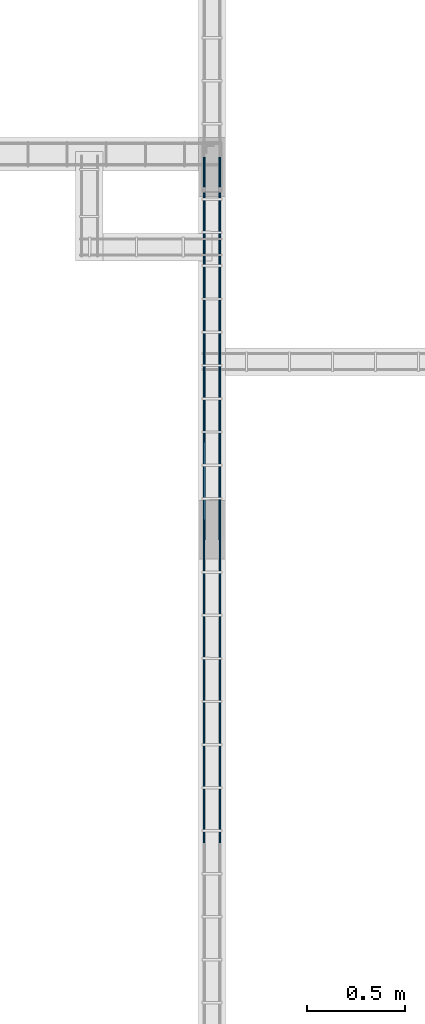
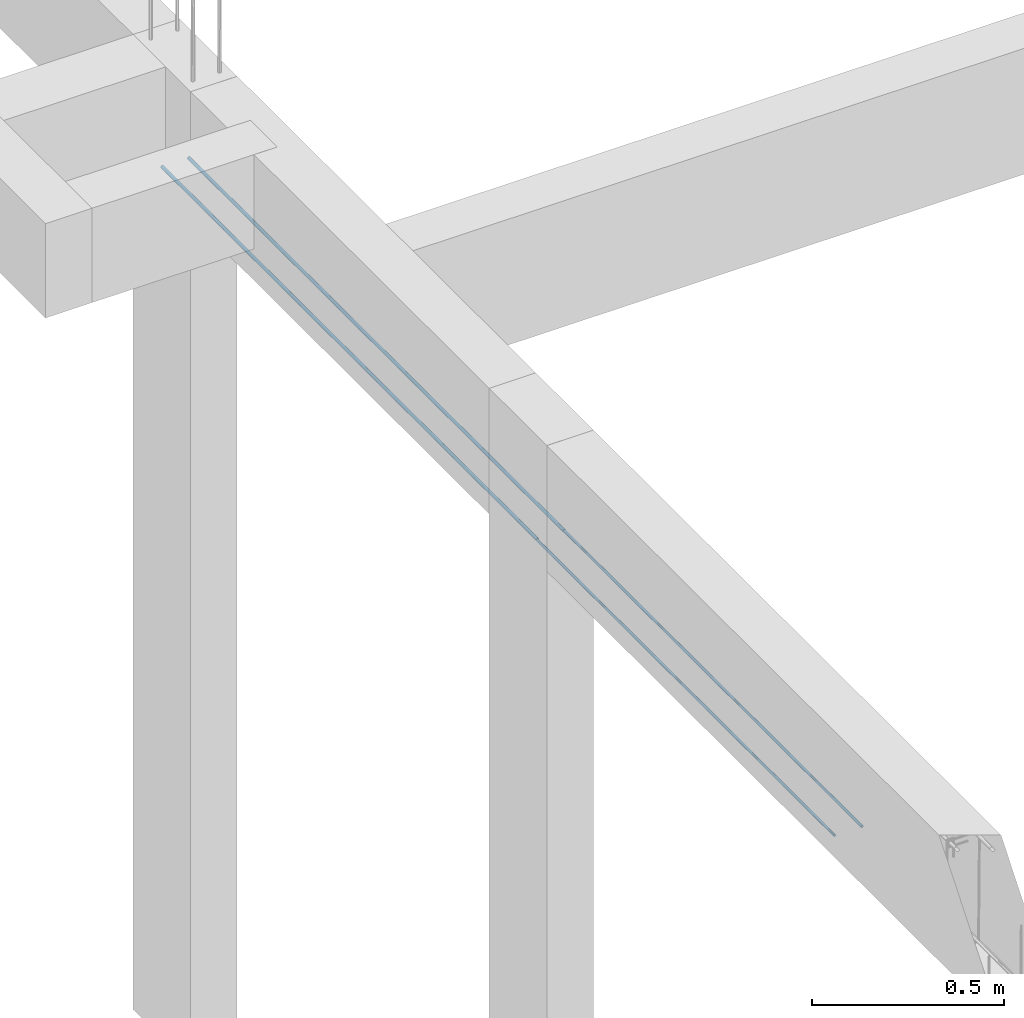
# One storey, part 65 of 236: 4 reinforcing bars.
"""IFC4 building model written with IfcOpenShell, lengths in centimetres."""

from ifc_helpers import new_model, entity, si_unit, derived_unit, frame, origin_with_axes, place, context, project, spatial, element, save


model = new_model("IFC4")

# Units and contexts
model_context = context("Model", 3, precision=1e-05, world=origin_with_axes(), identifier="Body")
ifc_project = project(units=[si_unit("LENGTHUNIT", "METRE", prefix="CENTI"), si_unit("VOLUMEUNIT", "CUBIC_METRE"), si_unit("AREAUNIT", "SQUARE_METRE"), si_unit("POWERUNIT", "WATT"), si_unit("LUMINOUSFLUXUNIT", "LUMEN"), si_unit("ELECTRICCURRENTUNIT", "AMPERE"), si_unit("PRESSUREUNIT", "PASCAL", prefix="KILO"), si_unit("MASSUNIT", "GRAM", prefix="KILO"), si_unit("PLANEANGLEUNIT", "RADIAN"), derived_unit("VOLUMETRICFLOWRATEUNIT", [(si_unit("LENGTHUNIT", "METRE"), 3), (si_unit("TIMEUNIT", "SECOND"), -1)])], contexts=[model_context])

# Site, building, storey
site_placement = place(None, frame((-4000.0, 0.0, 0.0), z_axis=(0.0, 0.0, 1.0), x_axis=(1.0, 0.0, 0.0)))
site = spatial("IfcSite", under=ifc_project, at=site_placement, Name="PADRÃO")
building_placement = place(site_placement, frame((0.0, 0.0, -14.0)))
building = spatial("IfcBuilding", under=site, at=building_placement, Name="CRECHE PRÉ-ESCOLA TIPO 2")
placement_1 = place(building_placement, origin_with_axes())
placement_2 = place(placement_1, frame((0.0, 0.0, 30.0), z_axis=(0.0, 0.0, 1.0), x_axis=(1.0, 0.0, 0.0)))
storey_placement = place(placement_2, frame((0.0, 0.0, 310.0), z_axis=(0.0, 0.0, 1.0), x_axis=(1.0, 0.0, 0.0)))
storey = spatial("IfcBuildingStorey", under=building, at=storey_placement, Name="TERREO", CompositionType="ELEMENT", Elevation=326.0)

# Reinforcing bars
reinforcing_bar_1_placement = place(storey_placement, frame((507.69, 2584.255, -36.5), z_axis=(0.0, 0.0, 1.0), x_axis=(1.0, 0.0, 0.0)))
element("IfcReinforcingBar", 1, at=reinforcing_bar_1_placement, inside=storey, Name="V270 - Longitudinal inferior", BarLength=0.0, CrossSectionArea=7.853981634e-05, NominalDiameter=1.0, PredefinedType="MAIN", context=model_context, shape_type="AdvancedSweptSolid", body=[
    entity("IfcSweptDiskSolid", entity("IfcCompositeCurve", [entity("IfcCompositeCurveSegment", "CONTINUOUS", True, entity("IfcPolyline", [entity("IfcCartesianPoint", [0.0, -97.755, -0.5]), entity("IfcCartesianPoint", [0.0, 97.755, -0.5])]))], False), 0.5),
])
reinforcing_bar_2_placement = place(storey_placement, frame((499.59, 2414.0, -36.7), z_axis=(0.0, 0.0, 1.0), x_axis=(1.0, 0.0, 0.0)))
element("IfcReinforcingBar", 2, at=reinforcing_bar_2_placement, inside=storey, Name="V270 - Longitudinal inferior", BarLength=0.0, CrossSectionArea=5.0265482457e-05, NominalDiameter=0.8, PredefinedType="MAIN", context=model_context, shape_type="AdvancedSweptSolid", body=[
    entity("IfcSweptDiskSolid", entity("IfcCompositeCurve", [entity("IfcCompositeCurveSegment", "CONTINUOUS", True, entity("IfcPolyline", [entity("IfcCartesianPoint", [0.0, -82.5, -0.4]), entity("IfcCartesianPoint", [0.0, 82.5, -0.4])]))], False), 0.4),
])
reinforcing_bar_3_placement = place(storey_placement, frame((499.69, 2584.255, -36.5), z_axis=(0.0, 0.0, 1.0), x_axis=(1.0, 0.0, 0.0)))
element("IfcReinforcingBar", 3, at=reinforcing_bar_3_placement, inside=storey, Name="V270 - Longitudinal inferior", BarLength=0.0, CrossSectionArea=7.853981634e-05, NominalDiameter=1.0, PredefinedType="MAIN", context=model_context, shape_type="AdvancedSweptSolid", body=[
    entity("IfcSweptDiskSolid", entity("IfcCompositeCurve", [entity("IfcCompositeCurveSegment", "CONTINUOUS", True, entity("IfcPolyline", [entity("IfcCartesianPoint", [0.0, -97.755, -0.5]), entity("IfcCartesianPoint", [0.0, 97.755, -0.5])]))], False), 0.5),
])
reinforcing_bar_4_placement = place(storey_placement, frame((507.79, 2414.0, -36.7), z_axis=(0.0, 0.0, 1.0), x_axis=(1.0, 0.0, 0.0)))
element("IfcReinforcingBar", 4, at=reinforcing_bar_4_placement, inside=storey, Name="V270 - Longitudinal inferior", BarLength=0.0, CrossSectionArea=5.0265482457e-05, NominalDiameter=0.8, PredefinedType="MAIN", context=model_context, shape_type="AdvancedSweptSolid", body=[
    entity("IfcSweptDiskSolid", entity("IfcCompositeCurve", [entity("IfcCompositeCurveSegment", "CONTINUOUS", True, entity("IfcPolyline", [entity("IfcCartesianPoint", [0.0, -82.5, -0.4]), entity("IfcCartesianPoint", [0.0, 82.5, -0.4])]))], False), 0.4),
])

save(model, "model.ifc")
